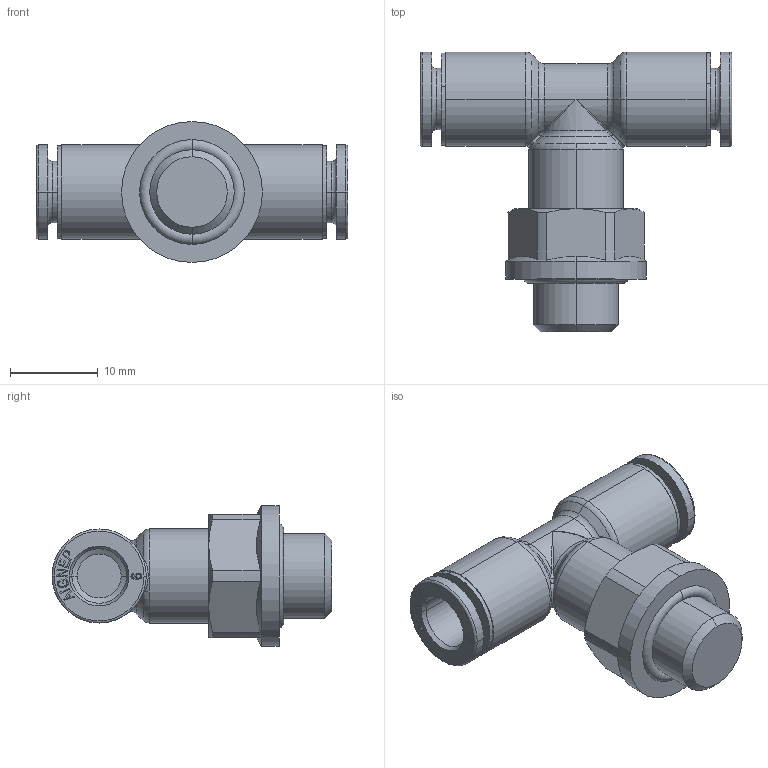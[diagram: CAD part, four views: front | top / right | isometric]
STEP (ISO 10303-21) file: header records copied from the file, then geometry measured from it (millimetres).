
FILE_DESCRIPTION (( 'STEP AP214' ), '1' );
FILE_NAME ('5421700013A.STEP', '2025-07-01T06:27:26', ( '' ), ( '' ), 'SwSTEP 2.0', 'SolidWorks 2020', '' );
FILE_SCHEMA (( 'AUTOMOTIVE_DESIGN' ));
Length unit declared in the file: millimetre
Products named in the file (1): 5421700013A
Bounding box: 35.4 x 31.8 x 16 mm (x, y, z)
Volume: 4460.6 mm3; surface area: 3131.5 mm2
Topology: 1 solids, 3 shells, 313 faces, 755 edges, 474 vertices
Faces by surface type: plane 145, bspline 72, cylinder 44, cone 27, torus 25
Entity records: 15861 total; most frequent: CARTESIAN_POINT 5625, ORIENTED_EDGE 1502, DIRECTION 1222, EDGE_CURVE 751, VERTEX_POINT 474, VECTOR 432, LINE 432, AXIS2_PLACEMENT_3D 395
